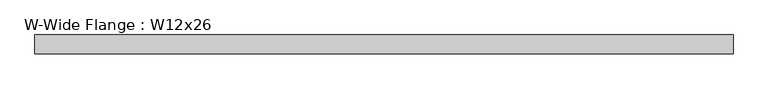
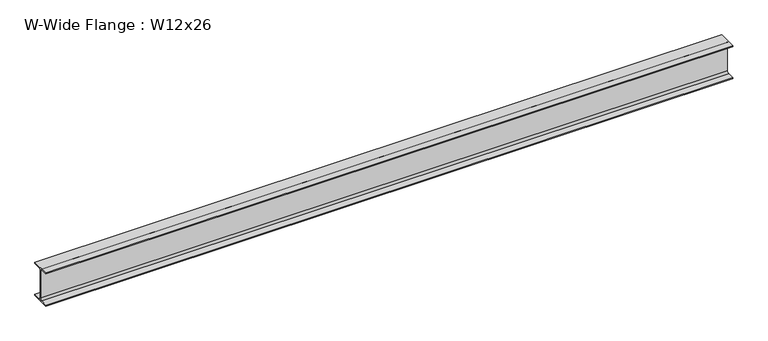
"""IFC4 building model written with IfcOpenShell, lengths in millimetres: beam geometry, W-Wide Flange : W12x26."""

from ifc_helpers import new_model, si_unit, point, frame, frame_2d, origin, place, context, project, spatial, polyline, circle_curve, trimmed, segment, composite_curve, outline, extrude, source, transform, mapped, element, save


def w_wide_flange_w12x26_772186aa(model_context):
    return source(origin(), model_context, "Body", "SweptSolid", [
        extrude(outline(composite_curve([segment(polyline([(82.423, -145.288), (82.423, -154.94), (-82.423, -154.94), (-82.423, -145.288), (-20.2565, -145.288)]), True, "CONTINUOUS"), segment(trimmed(circle_curve(frame_2d((-20.2565, -127.9525)), 17.3355), [point((-20.2565, -145.288))], [point((-2.921, -127.9525))], True, "CARTESIAN"), True, "CONTINUOUS"), segment(polyline([(-2.921, -127.9525), (-2.921, 127.9525)]), True, "CONTINUOUS"), segment(trimmed(circle_curve(frame_2d((-20.2565, 127.9525)), 17.3355), [point((-2.921, 127.9525))], [point((-20.2565, 145.288))], True, "CARTESIAN"), True, "CONTINUOUS"), segment(polyline([(-20.2565, 145.288), (-82.423, 145.288), (-82.423, 154.94), (82.423, 154.94), (82.423, 145.288), (20.2565, 145.288)]), True, "CONTINUOUS"), segment(trimmed(circle_curve(frame_2d((20.2565, 127.9525)), 17.3355), [point((20.2565, 145.288))], [point((2.921, 127.9525))], True, "CARTESIAN"), True, "CONTINUOUS"), segment(polyline([(2.921, 127.9525), (2.921, -127.9525)]), True, "CONTINUOUS"), segment(trimmed(circle_curve(frame_2d((20.2565, -127.9525)), 17.3355), [point((2.921, -127.9525))], [point((20.2565, -145.288))], True, "CARTESIAN"), True, "CONTINUOUS"), segment(polyline([(20.2565, -145.288), (82.423, -145.288)]), True, "CONTINUOUS")], self_intersect=False)), frame((-2889.25, 0.0, 0.0), z_axis=(1.0, 0.0, 0.0), x_axis=(0.0, 1.0, 0.0)), (0.0, 0.0, 1.0), 6051.55),
    ])


if __name__ == "__main__":
    model = new_model("IFC4")
    model_context = context("Model", 3, world=origin())
    ifc_project = project(units=[si_unit("LENGTHUNIT", "METRE", prefix="MILLI")], contexts=[model_context])
    site = spatial("IfcSite", under=ifc_project)
    building = spatial("IfcBuilding", under=site)
    placement = place(None, origin())
    w_wide_flange_w12x26_shape = w_wide_flange_w12x26_772186aa(model_context)
    element("IfcBeam", 1, ObjectType="W-Wide Flange : W12x26", at=placement, inside=building, context=model_context, shape_type="MappedRepresentation", body=[
        mapped(w_wide_flange_w12x26_shape, transform((0.0, 0.0, 0.0), x_axis=(1.0, 0.0, 0.0), y_axis=(0.0, 1.0, 0.0), z_axis=(0.0, 0.0, 1.0))),
    ])
    save(model, "model.ifc")
